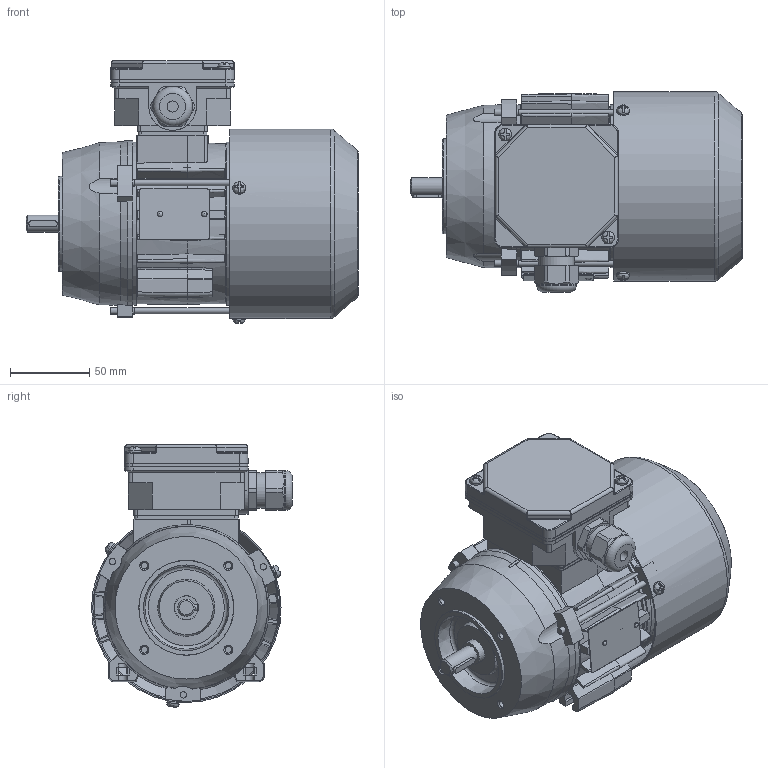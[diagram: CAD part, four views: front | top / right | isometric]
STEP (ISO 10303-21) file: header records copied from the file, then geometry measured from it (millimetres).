
FILE_DESCRIPTION( ( 'Unknown' ), '1' );
FILE_NAME( 'G:/Poczta Tk-1/STP/w.m.63/Sh63/SKh63-B2.stp', 'Unknown', ( 'K. Szlosek' ), ( 'BESEL S.A.' ), 'PSStep 17.0.49', 'Unknown', ' ' );
FILE_SCHEMA( ( 'AUTOMOTIVE_DESIGN { 1 0 10303 214 1 1 1 1 }' ) );
Length unit declared in the file: millimetre
Products named in the file (29): Assem1; K3-5320 Tarcza łożyskowa P Sg63; K4-2320 Uszczelka nr 1 Sh71,80; Wpust A4x4x18; K4-2820 Uszczelka nr 2 Sh71,80; K2-0860 Pokrywka skrzynki zaciskowej; Wkręt samogwintujący M4x16; K2-1769 Przewietrznik Sg63; Wkręt samogwintujący M4x8; K3-9974 wał Sh63-A,B standard; K3-9973 Kadłub ze stojanem wykończonym Sh63-B; K1-1112 Tarcza kołnierzowa B14_2 SKg63-..2; K3-5321 osłona przewietrznika Sg63; Dławnica M20x1,5; Łożysko 6202; Śruba ściągająca E_M4x85; Tabliczka znamionowa 32x44; Nitokołek A 2x6; K2-0859 Podstawa skrzynki 6-cio zaciskowej
Assembly tree (45 placements, depth 2):
  Assem1
    K3-5320 Tarcza łożyskowa P Sg63
    K4-2320 Uszczelka nr 1 Sh71,80
    Wpust A4x4x18
    K4-2820 Uszczelka nr 2 Sh71,80
    K2-0860 Pokrywka skrzynki zaciskowej
    Wkręt samogwintujący M4x16  x2
    K2-1769 Przewietrznik Sg63
    Wkręt samogwintujący M4x8  x3
    K3-9974 wał Sh63-A,B standard
    K3-9973 Kadłub ze stojanem wykończonym Sh63-B
    K1-1112 Tarcza kołnierzowa B14_2 SKg63-..2
    K3-5321 osłona przewietrznika Sg63
    Dławnica M20x1,5
    Łożysko 6202  x2
    Łożysko 6202  x2
    Łożysko 6202  x2
    Łożysko 6202  x2
    Łożysko 6202  x2
    Łożysko 6202  x2
    Łożysko 6202  x2
    Łożysko 6202  x2
    Łożysko 6202  x2
    Łożysko 6202  x2
    Łożysko 6202  x2
    Śruba ściągająca E_M4x85  x3
    Tabliczka znamionowa 32x44
    Nitokołek A 2x6  x2
    K2-0859 Podstawa skrzynki 6-cio zaciskowej
Bounding box: 209.5 x 126.8 x 165.9 mm (x, y, z)
Volume: 477436.8 mm3; surface area: 336989.6 mm2
Topology: 45 solids, 63 shells, 1855 faces, 5086 edges, 3298 vertices
Faces by surface type: plane 920, cylinder 541, cone 142, torus 116, bspline 97, sphere 39
Full cylindrical faces by diameter (mm): 2 x2, 2.4 x2, 3.242 x3, 3.7 x10, 4 x8, 4.134 x4, 4.5 x4, 4.8 x4, 5 x4, 7 x4, 8 x6, 11 x1, 12.9 x1, 13.1 x1, 13.5 x1, 15 x4, 15.4 x2, 18.376 x1, 18.38 x1, 19 x2, 19.5 x1, 20 x2, 20.1 x1, 21.52 x4, 22.3 x1, 25 x1, 28 x2, 28.48 x4, 31 x2, 35 x4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
Entity records: 80880 total; most frequent: CARTESIAN_POINT 25462, ORIENTED_EDGE 8752, DIRECTION 8368, EDGE_CURVE 4376, AXIS2_PLACEMENT_3D 3127, VERTEX_POINT 2982, LINE 2114, VECTOR 2114
